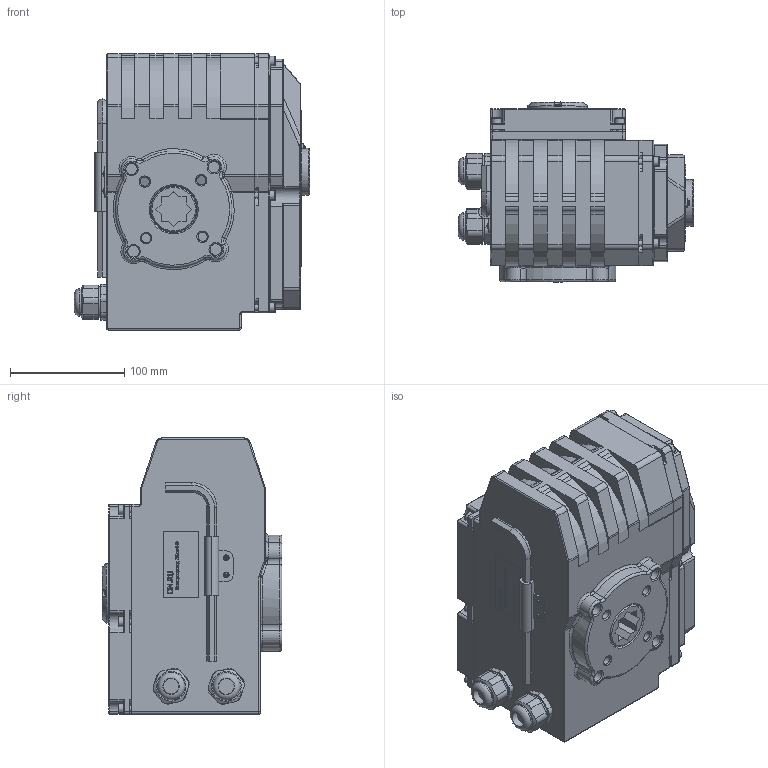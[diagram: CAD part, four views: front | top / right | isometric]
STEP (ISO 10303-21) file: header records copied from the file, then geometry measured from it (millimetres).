
FILE_DESCRIPTION(/* description */ ('D300-12506','CAx-IF Rec.Pracs.---Representation and Presentation of Product Manufacturing Information (PMI)---4.0---2014-10-13'),/* implementation_level */ '2;1');
FILE_NAME(/* name */ '',/* time_stamp */ '2026-04-01T00:58:35+03:00',/* author */ ('DN.RU'),/* organization */ ('DN.RU'),/* preprocessor_version */ 'ST-DEVELOPER v20',/* originating_system */ 'Autodesk Inventor 2025',/* authorisation */ '');
FILE_SCHEMA (('AP242_MANAGED_MODEL_BASED_3D_ENGINEERING_MIM_LF { 1 0 10303 442 1 1 4 }'));
Products named in the file (1): QT-N-040EM-O1-24VDC-У1 HARK
Bounding box: 205.9 x 157.5 x 241.8 mm (x, y, z)
Volume: 4761565.5 mm3; surface area: 300152.6 mm2
Topology: 1 solids, 2 shells, 1590 faces, 4193 edges, 2689 vertices
Faces by surface type: plane 690, cylinder 344, bspline 253, torus 197, cone 97, sphere 9
Full cylindrical faces by diameter (mm): 5 x12, 8 x4, 8.5 x12, 10 x4, 13.606 x2, 23.953 x2, 27.184 x2, 34.486 x1, 40 x2, 41 x1, 41.033 x1, 42.826 x2, 52 x1
Entity records: 54041 total; most frequent: CARTESIAN_POINT 14630, ORIENTED_EDGE 8328, DIRECTION 7242, EDGE_CURVE 4164, VERTEX_POINT 2689, AXIS2_PLACEMENT_3D 2566, LINE 2110, VECTOR 2110
